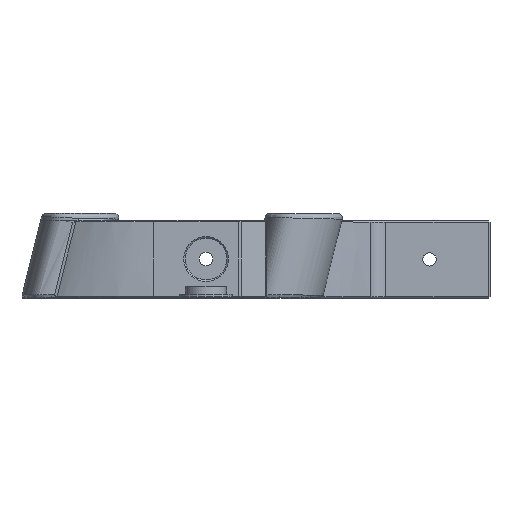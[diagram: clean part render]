
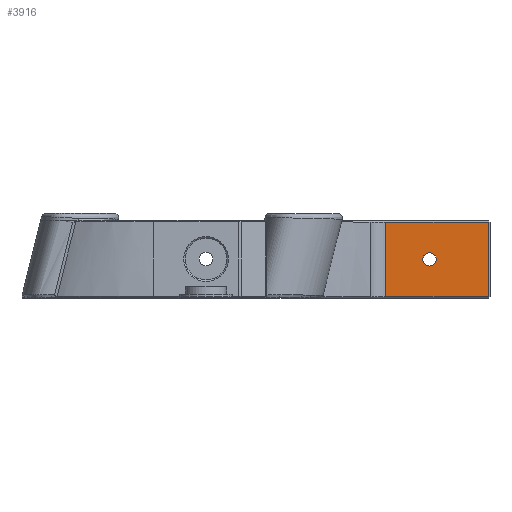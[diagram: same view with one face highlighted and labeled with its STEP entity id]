
A CAD part, top view. The second image highlights one B-rep face of the part: STEP entity #3916.
In plain terms, the highlighted planar face has unit normal (0, 0, 1).
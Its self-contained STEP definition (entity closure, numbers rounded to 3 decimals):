
#53=FACE_BOUND('',#954,.T.);
#78=CIRCLE('',#4060,2.25);
#154=PLANE('',#4059);
#344=LINE('',#17071,#509);
#348=LINE('',#17077,#513);
#356=LINE('',#17099,#521);
#359=LINE('',#17105,#524);
#509=VECTOR('',#4407,10.);
#513=VECTOR('',#4415,10.);
#521=VECTOR('',#4435,10.);
#524=VECTOR('',#4444,10.);
#730=FACE_OUTER_BOUND('',#953,.T.);
#953=EDGE_LOOP('',(#3449,#3450,#3451,#3452));
#954=EDGE_LOOP('',(#3453));
#1717=VERTEX_POINT('',#15894);
#1738=VERTEX_POINT('',#17051);
#1743=VERTEX_POINT('',#17064);
#1746=VERTEX_POINT('',#17095);
#1747=VERTEX_POINT('',#17106);
#2327=EDGE_CURVE('',#1743,#1717,#344,.T.);
#2331=EDGE_CURVE('',#1738,#1743,#348,.T.);
#2341=EDGE_CURVE('',#1746,#1738,#356,.T.);
#2344=EDGE_CURVE('',#1717,#1746,#359,.T.);
#2345=EDGE_CURVE('',#1747,#1747,#78,.T.);
#3449=ORIENTED_EDGE('',*,*,#2327,.T.);
#3450=ORIENTED_EDGE('',*,*,#2344,.T.);
#3451=ORIENTED_EDGE('',*,*,#2341,.T.);
#3452=ORIENTED_EDGE('',*,*,#2331,.T.);
#3453=ORIENTED_EDGE('',*,*,#2345,.F.);
#3916=ADVANCED_FACE('',(#730,#53),#154,.T.);
#4059=AXIS2_PLACEMENT_3D('',#17104,#4442,#4443);
#4060=AXIS2_PLACEMENT_3D('',#17107,#4445,#4446);
#4407=DIRECTION('',(-1.,0.,0.));
#4415=DIRECTION('',(0.,1.,0.));
#4435=DIRECTION('',(1.,0.,0.));
#4442=DIRECTION('center_axis',(0.,0.,1.));
#4443=DIRECTION('ref_axis',(-1.,0.,0.));
#4444=DIRECTION('',(0.,-1.,0.));
#4445=DIRECTION('center_axis',(0.,0.,1.));
#4446=DIRECTION('ref_axis',(-1.,0.,0.));
#15894=CARTESIAN_POINT('',(120.069,25.5,-18.729));
#17051=CARTESIAN_POINT('',(154.569,0.5,-18.729));
#17064=CARTESIAN_POINT('',(154.569,25.5,-18.729));
#17071=CARTESIAN_POINT('',(136.197,25.5,-18.729));
#17077=CARTESIAN_POINT('',(154.569,13.,-18.729));
#17095=CARTESIAN_POINT('',(120.069,0.5,-18.729));
#17099=CARTESIAN_POINT('',(125.985,0.5,-18.729));
#17104=CARTESIAN_POINT('Origin',(155.069,26.,-18.729));
#17105=CARTESIAN_POINT('',(120.069,26.,-18.729));
#17106=CARTESIAN_POINT('',(137.069,13.,-18.729));
#17107=CARTESIAN_POINT('Origin',(134.819,13.,-18.729));
